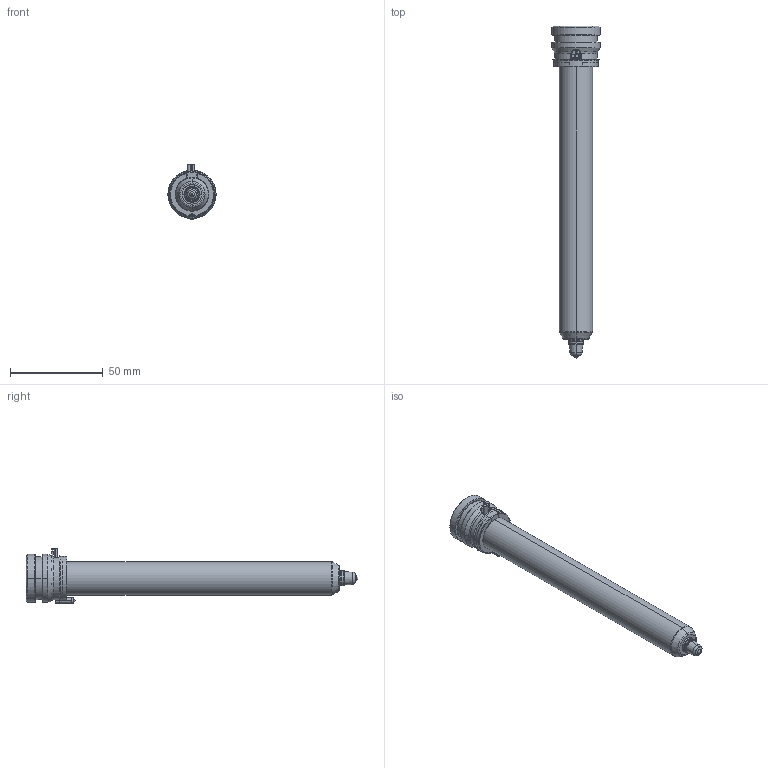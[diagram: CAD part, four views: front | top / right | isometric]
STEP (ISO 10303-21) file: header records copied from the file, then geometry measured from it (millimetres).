
FILE_DESCRIPTION((''),'2;1');
FILE_NAME('TH18161-A-1B50-PK-JG','2023-12-14T',('umhib'),('Thermoplay S.p.A.'),'PRO/ENGINEER BY PARAMETRIC TECHNOLOGY CORPORATION, 2017170','PRO/ENGINEER BY PARAMETRIC TECHNOLOGY CORPORATION, 2017170','');
FILE_SCHEMA(('CONFIG_CONTROL_DESIGN'));
Length unit declared in the file: millimetre
Products named in the file (1): TH18161-A-1B50-PK-JG
Bounding box: 26 x 179 x 29.5 mm (x, y, z)
Volume: 34987.8 mm3; surface area: 25544.2 mm2
Topology: 1 solids, 2 shells, 394 faces, 1026 edges, 637 vertices
Faces by surface type: cylinder 151, plane 85, cone 66, torus 54, bspline 24, sphere 12, extrusion 2
Entity records: 17996 total; most frequent: CARTESIAN_POINT 6173, ORIENTED_EDGE 2028, DIRECTION 2015, EDGE_CURVE 1016, AXIS2_PLACEMENT_3D 808, VERTEX_POINT 637, CIRCLE 439, EDGE_LOOP 414
